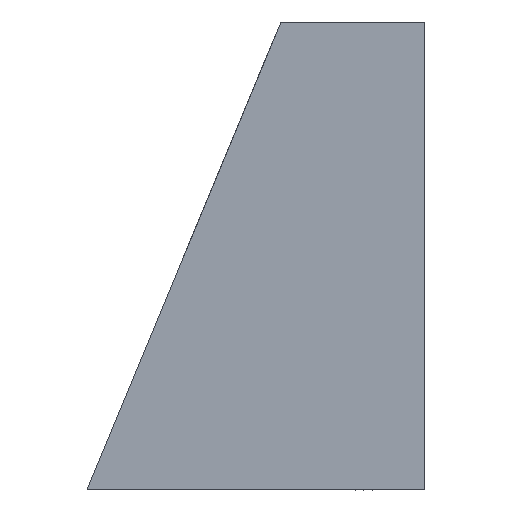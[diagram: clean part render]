
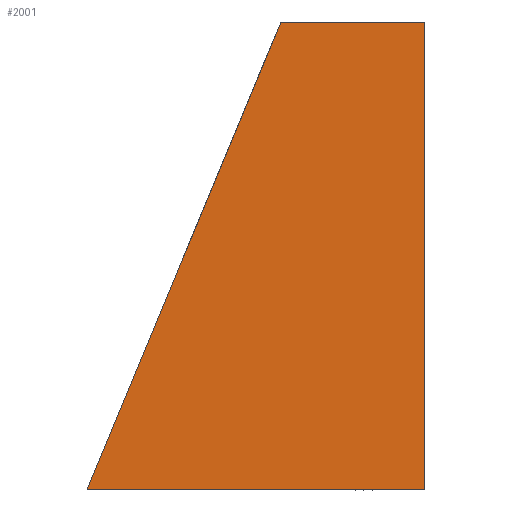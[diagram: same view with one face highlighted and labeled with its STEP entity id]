
A CAD part, front view. The second image highlights one B-rep face of the part: STEP entity #2001.
In plain terms, the highlighted planar face has unit normal (0, -1, 0).
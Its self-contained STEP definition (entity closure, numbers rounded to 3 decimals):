
#26 = DIRECTION ( 'NONE',  ( 1., 0., 0. ) ) ;
#120 = VECTOR ( 'NONE', #3231, 1000. ) ;
#364 = CARTESIAN_POINT ( 'NONE',  ( 6800., 3545., -4180. ) ) ;
#621 = CARTESIAN_POINT ( 'NONE',  ( 6874.558, 3545., -4000. ) ) ;
#697 = CARTESIAN_POINT ( 'NONE',  ( 6800., 3545., -4180. ) ) ;
#719 = VECTOR ( 'NONE', #3249, 1000. ) ;
#898 = LINE ( 'NONE', #1910, #120 ) ;
#1116 = DIRECTION ( 'NONE',  ( 0., 1., 0. ) ) ;
#1489 = CARTESIAN_POINT ( 'NONE',  ( 6800., 3545., -4180. ) ) ;
#1555 = ORIENTED_EDGE ( 'NONE', *, *, #2935, .T. ) ;
#1634 = CARTESIAN_POINT ( 'NONE',  ( 6930., 3545., -4180. ) ) ;
#1675 = ORIENTED_EDGE ( 'NONE', *, *, #3072, .T. ) ;
#1680 = DIRECTION ( 'NONE',  ( 0., 0., -1. ) ) ;
#1701 = LINE ( 'NONE', #1634, #2025 ) ;
#1708 = LINE ( 'NONE', #364, #3674 ) ;
#1824 = CARTESIAN_POINT ( 'NONE',  ( 6930., 3545., -4000. ) ) ;
#1910 = CARTESIAN_POINT ( 'NONE',  ( 6800., 3545., -4000. ) ) ;
#1948 = CARTESIAN_POINT ( 'NONE',  ( 6930., 3545., -4180. ) ) ;
#1994 = AXIS2_PLACEMENT_3D ( 'NONE', #1489, #1116, #2169 ) ;
#2001 = ADVANCED_FACE ( 'NONE', ( #2447 ), #3843, .F. ) ;
#2025 = VECTOR ( 'NONE', #1680, 1000. ) ;
#2169 = DIRECTION ( 'NONE',  ( 0., 0., -1. ) ) ;
#2208 = LINE ( 'NONE', #2960, #719 ) ;
#2447 = FACE_OUTER_BOUND ( 'NONE', #2779, .T. ) ;
#2779 = EDGE_LOOP ( 'NONE', ( #1555, #1675, #3161, #3272 ) ) ;
#2868 = VERTEX_POINT ( 'NONE', #1948 ) ;
#2935 = EDGE_CURVE ( 'NONE', #4159, #3727, #2208, .T. ) ;
#2960 = CARTESIAN_POINT ( 'NONE',  ( 6800., 3545., -4180. ) ) ;
#3072 = EDGE_CURVE ( 'NONE', #3727, #2868, #1708, .T. ) ;
#3161 = ORIENTED_EDGE ( 'NONE', *, *, #4109, .F. ) ;
#3231 = DIRECTION ( 'NONE',  ( 1., 0., 0. ) ) ;
#3249 = DIRECTION ( 'NONE',  ( -0.383, 0., -0.924 ) ) ;
#3272 = ORIENTED_EDGE ( 'NONE', *, *, #4242, .F. ) ;
#3674 = VECTOR ( 'NONE', #26, 1000. ) ;
#3727 = VERTEX_POINT ( 'NONE', #697 ) ;
#3843 = PLANE ( 'NONE',  #1994 ) ;
#4109 = EDGE_CURVE ( 'NONE', #4274, #2868, #1701, .T. ) ;
#4159 = VERTEX_POINT ( 'NONE', #621 ) ;
#4242 = EDGE_CURVE ( 'NONE', #4159, #4274, #898, .T. ) ;
#4274 = VERTEX_POINT ( 'NONE', #1824 ) ;
